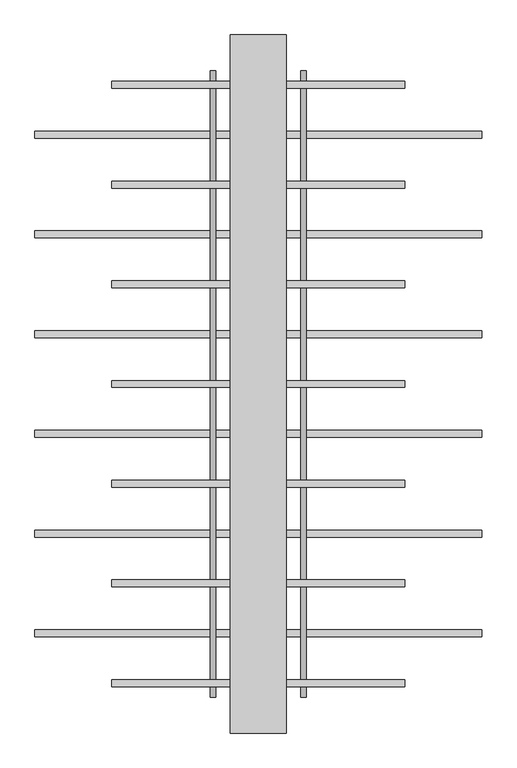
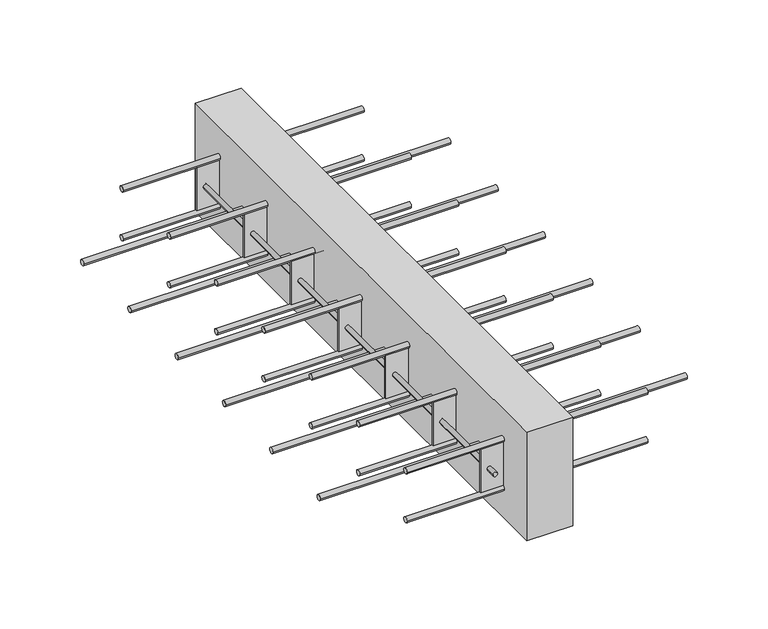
"""IFC4 building model written with IfcOpenShell, lengths in millimetres: proxy geometry, ACINOXplus_Typenreihe_Q : QF+ N."""

from ifc_helpers import new_model, si_unit, point, frame, frame_2d, origin, place, context, project, spatial, polyline, circle_curve, trimmed, segment, composite_curve, outline, extrude, source, transform, mapped, element, save


def generic_models_7f8d0e5b(model_context):
    return source(origin(), model_context, "Body", "SweptSolid", [
        extrude(outline(composite_curve([segment(trimmed(circle_curve(frame_2d((71.4285714, -109.0)), 5.0), [point((66.4285714, -109.0))], [point((76.4285714, -109.0))], False, "CARTESIAN"), True, "CONTINUOUS"), segment(trimmed(circle_curve(frame_2d((71.4285714, -109.0)), 5.0), [point((76.4285714, -109.0))], [point((66.4285714, -109.0))], False, "CARTESIAN"), True, "CONTINUOUS")], self_intersect=False)), frame((-320.0, 0.0, 0.0), z_axis=(1.0, 0.0, 0.0), x_axis=(0.0, 1.0, 0.0)), (0.0, 0.0, 1.0), 640.0),
        extrude(outline(composite_curve([segment(trimmed(circle_curve(frame_2d((-71.4285714, -109.0)), 5.0), [point((-76.4285714, -109.0))], [point((-66.4285714, -109.0))], False, "CARTESIAN"), True, "CONTINUOUS"), segment(trimmed(circle_curve(frame_2d((-71.4285714, -109.0)), 5.0), [point((-66.4285714, -109.0))], [point((-76.4285714, -109.0))], False, "CARTESIAN"), True, "CONTINUOUS")], self_intersect=False)), frame((-320.0, 0.0, 0.0), z_axis=(1.0, 0.0, 0.0), x_axis=(0.0, 1.0, 0.0)), (0.0, 0.0, 1.0), 640.0),
        extrude(outline(composite_curve([segment(trimmed(circle_curve(frame_2d((214.2857143, -109.0)), 5.0), [point((209.2857143, -109.0))], [point((219.2857143, -109.0))], False, "CARTESIAN"), True, "CONTINUOUS"), segment(trimmed(circle_curve(frame_2d((214.2857143, -109.0)), 5.0), [point((219.2857143, -109.0))], [point((209.2857143, -109.0))], False, "CARTESIAN"), True, "CONTINUOUS")], self_intersect=False)), frame((-320.0, 0.0, 0.0), z_axis=(1.0, 0.0, 0.0), x_axis=(0.0, 1.0, 0.0)), (0.0, 0.0, 1.0), 640.0),
        extrude(outline(composite_curve([segment(trimmed(circle_curve(frame_2d((357.1428571, -109.0)), 5.0), [point((352.1428571, -109.0))], [point((362.1428571, -109.0))], False, "CARTESIAN"), True, "CONTINUOUS"), segment(trimmed(circle_curve(frame_2d((357.1428571, -109.0)), 5.0), [point((362.1428571, -109.0))], [point((352.1428571, -109.0))], False, "CARTESIAN"), True, "CONTINUOUS")], self_intersect=False)), frame((-320.0, 0.0, 0.0), z_axis=(1.0, 0.0, 0.0), x_axis=(0.0, 1.0, 0.0)), (0.0, 0.0, 1.0), 640.0),
        extrude(outline(composite_curve([segment(trimmed(circle_curve(frame_2d((-214.2857143, -109.0)), 5.0), [point((-219.2857143, -109.0))], [point((-209.2857143, -109.0))], False, "CARTESIAN"), True, "CONTINUOUS"), segment(trimmed(circle_curve(frame_2d((-214.2857143, -109.0)), 5.0), [point((-209.2857143, -109.0))], [point((-219.2857143, -109.0))], False, "CARTESIAN"), True, "CONTINUOUS")], self_intersect=False)), frame((-320.0, 0.0, 0.0), z_axis=(1.0, 0.0, 0.0), x_axis=(0.0, 1.0, 0.0)), (0.0, 0.0, 1.0), 640.0),
        extrude(outline(composite_curve([segment(trimmed(circle_curve(frame_2d((-357.1428571, -109.0)), 5.0), [point((-362.1428571, -109.0))], [point((-352.1428571, -109.0))], False, "CARTESIAN"), True, "CONTINUOUS"), segment(trimmed(circle_curve(frame_2d((-357.1428571, -109.0)), 5.0), [point((-352.1428571, -109.0))], [point((-362.1428571, -109.0))], False, "CARTESIAN"), True, "CONTINUOUS")], self_intersect=False)), frame((-320.0, 0.0, 0.0), z_axis=(1.0, 0.0, 0.0), x_axis=(0.0, 1.0, 0.0)), (0.0, 0.0, 1.0), 640.0),
        extrude(outline(polyline([(40.0, 500.0), (40.0, -500.0), (-40.0, -500.0), (-40.0, 500.0), (40.0, 500.0)])), frame((0.0, 0.0, -200.0), z_axis=(0.0, 0.0, 1.0), x_axis=(1.0, 0.0, 0.0)), (0.0, 0.0, 1.0), 200.0),
        extrude(outline(polyline([(80.0, -284.2142857), (80.0, -287.2142857), (-80.0, -287.2142857), (-80.0, -284.2142857), (80.0, -284.2142857)])), frame((0.0, 0.0, -140.0), z_axis=(0.0, 0.0, 1.0), x_axis=(1.0, 0.0, 0.0)), (0.0, 0.0, 1.0), 80.0),
        extrude(outline(polyline([(80.0, -141.3571429), (80.0, -144.3571429), (-80.0, -144.3571429), (-80.0, -141.3571429), (80.0, -141.3571429)])), frame((0.0, 0.0, -140.0), z_axis=(0.0, 0.0, 1.0), x_axis=(1.0, 0.0, 0.0)), (0.0, 0.0, 1.0), 80.0),
        extrude(outline(polyline([(80.0, 1.5), (80.0, -1.5), (-80.0, -1.5), (-80.0, 1.5), (80.0, 1.5)])), frame((0.0, 0.0, -140.0), z_axis=(0.0, 0.0, 1.0), x_axis=(1.0, 0.0, 0.0)), (0.0, 0.0, 1.0), 80.0),
        extrude(outline(polyline([(80.0, 144.3571429), (80.0, 141.3571429), (-80.0, 141.3571429), (-80.0, 144.3571429), (80.0, 144.3571429)])), frame((0.0, 0.0, -140.0), z_axis=(0.0, 0.0, 1.0), x_axis=(1.0, 0.0, 0.0)), (0.0, 0.0, 1.0), 80.0),
        extrude(outline(polyline([(80.0, 287.2142857), (80.0, 284.2142857), (-80.0, 284.2142857), (-80.0, 287.2142857), (80.0, 287.2142857)])), frame((0.0, 0.0, -140.0), z_axis=(0.0, 0.0, 1.0), x_axis=(1.0, 0.0, 0.0)), (0.0, 0.0, 1.0), 80.0),
        extrude(outline(polyline([(80.0, -427.0714286), (80.0, -430.0714286), (-80.0, -430.0714286), (-80.0, -427.0714286), (80.0, -427.0714286)])), frame((0.0, 0.0, -140.0), z_axis=(0.0, 0.0, 1.0), x_axis=(1.0, 0.0, 0.0)), (0.0, 0.0, 1.0), 80.0),
        extrude(outline(polyline([(80.0, 430.0714286), (80.0, 427.0714286), (-80.0, 427.0714286), (-80.0, 430.0714286), (80.0, 430.0714286)])), frame((0.0, 0.0, -140.0), z_axis=(0.0, 0.0, 1.0), x_axis=(1.0, 0.0, 0.0)), (0.0, 0.0, 1.0), 80.0),
        extrude(outline(composite_curve([segment(trimmed(circle_curve(frame_2d((-100.0, -65.0)), 4.0), [point((-100.0, -69.0))], [point((-100.0, -61.0))], False, "CARTESIAN"), True, "CONTINUOUS"), segment(trimmed(circle_curve(frame_2d((-100.0, -65.0)), 4.0), [point((-100.0, -61.0))], [point((-100.0, -69.0))], False, "CARTESIAN"), True, "CONTINUOUS")], self_intersect=False)), frame((0.0, -427.0714286, 0.0), z_axis=(0.0, 1.0, 0.0), x_axis=(0.0, 0.0, 1.0)), (0.0, 0.0, 1.0), 711.2857143),
        extrude(outline(composite_curve([segment(trimmed(circle_curve(frame_2d((-100.0, -65.0)), 4.0), [point((-100.0, -69.0))], [point((-100.0, -61.0))], False, "CARTESIAN"), True, "CONTINUOUS"), segment(trimmed(circle_curve(frame_2d((-100.0, -65.0)), 4.0), [point((-100.0, -61.0))], [point((-100.0, -69.0))], False, "CARTESIAN"), True, "CONTINUOUS")], self_intersect=False)), frame((0.0, 430.0714286, 0.0), z_axis=(0.0, 1.0, 0.0), x_axis=(0.0, 0.0, 1.0)), (0.0, 0.0, 1.0), 18.5),
        extrude(outline(composite_curve([segment(trimmed(circle_curve(frame_2d((-100.0, -65.0)), 4.0), [point((-100.0, -61.0))], [point((-100.0, -69.0))], False, "CARTESIAN"), True, "CONTINUOUS"), segment(trimmed(circle_curve(frame_2d((-100.0, -65.0)), 4.0), [point((-100.0, -69.0))], [point((-100.0, -61.0))], False, "CARTESIAN"), True, "CONTINUOUS")], self_intersect=False)), frame((0.0, -448.5714286, 0.0), z_axis=(0.0, 1.0, 0.0), x_axis=(0.0, 0.0, 1.0)), (0.0, 0.0, 1.0), 18.5),
        extrude(outline(composite_curve([segment(trimmed(circle_curve(frame_2d((-100.0, -65.0)), 4.0), [point((-100.0, -69.0))], [point((-100.0, -61.0))], False, "CARTESIAN"), True, "CONTINUOUS"), segment(trimmed(circle_curve(frame_2d((-100.0, -65.0)), 4.0), [point((-100.0, -61.0))], [point((-100.0, -69.0))], False, "CARTESIAN"), True, "CONTINUOUS")], self_intersect=False)), frame((0.0, 287.2142857, 0.0), z_axis=(0.0, 1.0, 0.0), x_axis=(0.0, 0.0, 1.0)), (0.0, 0.0, 1.0), 139.8571429),
        extrude(outline(composite_curve([segment(trimmed(circle_curve(frame_2d((-100.0, 65.0)), 4.0), [point((-100.0, 61.0))], [point((-100.0, 69.0))], False, "CARTESIAN"), True, "CONTINUOUS"), segment(trimmed(circle_curve(frame_2d((-100.0, 65.0)), 4.0), [point((-100.0, 69.0))], [point((-100.0, 61.0))], False, "CARTESIAN"), True, "CONTINUOUS")], self_intersect=False)), frame((0.0, -427.0714286, 0.0), z_axis=(0.0, 1.0, 0.0), x_axis=(0.0, 0.0, 1.0)), (0.0, 0.0, 1.0), 711.2857143),
        extrude(outline(composite_curve([segment(trimmed(circle_curve(frame_2d((-100.0, 65.0)), 4.0), [point((-100.0, 61.0))], [point((-100.0, 69.0))], False, "CARTESIAN"), True, "CONTINUOUS"), segment(trimmed(circle_curve(frame_2d((-100.0, 65.0)), 4.0), [point((-100.0, 69.0))], [point((-100.0, 61.0))], False, "CARTESIAN"), True, "CONTINUOUS")], self_intersect=False)), frame((0.0, 430.0714286, 0.0), z_axis=(0.0, 1.0, 0.0), x_axis=(0.0, 0.0, 1.0)), (0.0, 0.0, 1.0), 18.5),
        extrude(outline(composite_curve([segment(trimmed(circle_curve(frame_2d((-100.0, 65.0)), 4.0), [point((-100.0, 69.0))], [point((-100.0, 61.0))], False, "CARTESIAN"), True, "CONTINUOUS"), segment(trimmed(circle_curve(frame_2d((-100.0, 65.0)), 4.0), [point((-100.0, 61.0))], [point((-100.0, 69.0))], False, "CARTESIAN"), True, "CONTINUOUS")], self_intersect=False)), frame((0.0, -448.5714286, 0.0), z_axis=(0.0, 1.0, 0.0), x_axis=(0.0, 0.0, 1.0)), (0.0, 0.0, 1.0), 18.5),
        extrude(outline(composite_curve([segment(trimmed(circle_curve(frame_2d((-100.0, 65.0)), 4.0), [point((-100.0, 61.0))], [point((-100.0, 69.0))], False, "CARTESIAN"), True, "CONTINUOUS"), segment(trimmed(circle_curve(frame_2d((-100.0, 65.0)), 4.0), [point((-100.0, 69.0))], [point((-100.0, 61.0))], False, "CARTESIAN"), True, "CONTINUOUS")], self_intersect=False)), frame((0.0, 287.2142857, 0.0), z_axis=(0.0, 1.0, 0.0), x_axis=(0.0, 0.0, 1.0)), (0.0, 0.0, 1.0), 139.8571429),
        extrude(outline(composite_curve([segment(trimmed(circle_curve(frame_2d((142.8571429, -145.0)), 5.0), [point((137.8571429, -145.0))], [point((147.8571429, -145.0))], False, "CARTESIAN"), True, "CONTINUOUS"), segment(trimmed(circle_curve(frame_2d((142.8571429, -145.0)), 5.0), [point((147.8571429, -145.0))], [point((137.8571429, -145.0))], False, "CARTESIAN"), True, "CONTINUOUS")], self_intersect=False)), frame((-210.0, 0.0, 0.0), z_axis=(1.0, 0.0, 0.0), x_axis=(0.0, 1.0, 0.0)), (0.0, 0.0, 1.0), 420.0),
        extrude(outline(composite_curve([segment(trimmed(circle_curve(frame_2d((0.0, -145.0)), 5.0), [point((-5.0, -145.0))], [point((5.0, -145.0))], False, "CARTESIAN"), True, "CONTINUOUS"), segment(trimmed(circle_curve(frame_2d((0.0, -145.0)), 5.0), [point((5.0, -145.0))], [point((-5.0, -145.0))], False, "CARTESIAN"), True, "CONTINUOUS")], self_intersect=False)), frame((-210.0, 0.0, 0.0), z_axis=(1.0, 0.0, 0.0), x_axis=(0.0, 1.0, 0.0)), (0.0, 0.0, 1.0), 420.0),
        extrude(outline(composite_curve([segment(trimmed(circle_curve(frame_2d((-142.8571429, -145.0)), 5.0), [point((-147.8571429, -145.0))], [point((-137.8571429, -145.0))], False, "CARTESIAN"), True, "CONTINUOUS"), segment(trimmed(circle_curve(frame_2d((-142.8571429, -145.0)), 5.0), [point((-137.8571429, -145.0))], [point((-147.8571429, -145.0))], False, "CARTESIAN"), True, "CONTINUOUS")], self_intersect=False)), frame((-210.0, 0.0, 0.0), z_axis=(1.0, 0.0, 0.0), x_axis=(0.0, 1.0, 0.0)), (0.0, 0.0, 1.0), 420.0),
        extrude(outline(composite_curve([segment(trimmed(circle_curve(frame_2d((285.7142857, -145.0)), 5.0), [point((280.7142857, -145.0))], [point((290.7142857, -145.0))], False, "CARTESIAN"), True, "CONTINUOUS"), segment(trimmed(circle_curve(frame_2d((285.7142857, -145.0)), 5.0), [point((290.7142857, -145.0))], [point((280.7142857, -145.0))], False, "CARTESIAN"), True, "CONTINUOUS")], self_intersect=False)), frame((-210.0, 0.0, 0.0), z_axis=(1.0, 0.0, 0.0), x_axis=(0.0, 1.0, 0.0)), (0.0, 0.0, 1.0), 420.0),
        extrude(outline(composite_curve([segment(trimmed(circle_curve(frame_2d((428.5714286, -145.0)), 5.0), [point((423.5714286, -145.0))], [point((433.5714286, -145.0))], False, "CARTESIAN"), True, "CONTINUOUS"), segment(trimmed(circle_curve(frame_2d((428.5714286, -145.0)), 5.0), [point((433.5714286, -145.0))], [point((423.5714286, -145.0))], False, "CARTESIAN"), True, "CONTINUOUS")], self_intersect=False)), frame((-210.0, 0.0, 0.0), z_axis=(1.0, 0.0, 0.0), x_axis=(0.0, 1.0, 0.0)), (0.0, 0.0, 1.0), 420.0),
        extrude(outline(composite_curve([segment(trimmed(circle_curve(frame_2d((-285.7142857, -145.0)), 5.0), [point((-290.7142857, -145.0))], [point((-280.7142857, -145.0))], False, "CARTESIAN"), True, "CONTINUOUS"), segment(trimmed(circle_curve(frame_2d((-285.7142857, -145.0)), 5.0), [point((-280.7142857, -145.0))], [point((-290.7142857, -145.0))], False, "CARTESIAN"), True, "CONTINUOUS")], self_intersect=False)), frame((-210.0, 0.0, 0.0), z_axis=(1.0, 0.0, 0.0), x_axis=(0.0, 1.0, 0.0)), (0.0, 0.0, 1.0), 420.0),
        extrude(outline(composite_curve([segment(trimmed(circle_curve(frame_2d((-428.5714286, -145.0)), 5.0), [point((-433.5714286, -145.0))], [point((-423.5714286, -145.0))], False, "CARTESIAN"), True, "CONTINUOUS"), segment(trimmed(circle_curve(frame_2d((-428.5714286, -145.0)), 5.0), [point((-423.5714286, -145.0))], [point((-433.5714286, -145.0))], False, "CARTESIAN"), True, "CONTINUOUS")], self_intersect=False)), frame((-210.0, 0.0, 0.0), z_axis=(1.0, 0.0, 0.0), x_axis=(0.0, 1.0, 0.0)), (0.0, 0.0, 1.0), 420.0),
        extrude(outline(composite_curve([segment(trimmed(circle_curve(frame_2d((142.8571429, -55.0)), 5.0), [point((137.8571429, -55.0))], [point((147.8571429, -55.0))], False, "CARTESIAN"), True, "CONTINUOUS"), segment(trimmed(circle_curve(frame_2d((142.8571429, -55.0)), 5.0), [point((147.8571429, -55.0))], [point((137.8571429, -55.0))], False, "CARTESIAN"), True, "CONTINUOUS")], self_intersect=False)), frame((-210.0, 0.0, 0.0), z_axis=(1.0, 0.0, 0.0), x_axis=(0.0, 1.0, 0.0)), (0.0, 0.0, 1.0), 420.0),
        extrude(outline(composite_curve([segment(trimmed(circle_curve(frame_2d((0.0, -55.0)), 5.0), [point((-5.0, -55.0))], [point((5.0, -55.0))], False, "CARTESIAN"), True, "CONTINUOUS"), segment(trimmed(circle_curve(frame_2d((0.0, -55.0)), 5.0), [point((5.0, -55.0))], [point((-5.0, -55.0))], False, "CARTESIAN"), True, "CONTINUOUS")], self_intersect=False)), frame((-210.0, 0.0, 0.0), z_axis=(1.0, 0.0, 0.0), x_axis=(0.0, 1.0, 0.0)), (0.0, 0.0, 1.0), 420.0),
        extrude(outline(composite_curve([segment(trimmed(circle_curve(frame_2d((-142.8571429, -55.0)), 5.0), [point((-147.8571429, -55.0))], [point((-137.8571429, -55.0))], False, "CARTESIAN"), True, "CONTINUOUS"), segment(trimmed(circle_curve(frame_2d((-142.8571429, -55.0)), 5.0), [point((-137.8571429, -55.0))], [point((-147.8571429, -55.0))], False, "CARTESIAN"), True, "CONTINUOUS")], self_intersect=False)), frame((-210.0, 0.0, 0.0), z_axis=(1.0, 0.0, 0.0), x_axis=(0.0, 1.0, 0.0)), (0.0, 0.0, 1.0), 420.0),
        extrude(outline(composite_curve([segment(trimmed(circle_curve(frame_2d((285.7142857, -55.0)), 5.0), [point((280.7142857, -55.0))], [point((290.7142857, -55.0))], False, "CARTESIAN"), True, "CONTINUOUS"), segment(trimmed(circle_curve(frame_2d((285.7142857, -55.0)), 5.0), [point((290.7142857, -55.0))], [point((280.7142857, -55.0))], False, "CARTESIAN"), True, "CONTINUOUS")], self_intersect=False)), frame((-210.0, 0.0, 0.0), z_axis=(1.0, 0.0, 0.0), x_axis=(0.0, 1.0, 0.0)), (0.0, 0.0, 1.0), 420.0),
        extrude(outline(composite_curve([segment(trimmed(circle_curve(frame_2d((428.5714286, -55.0)), 5.0), [point((423.5714286, -55.0))], [point((433.5714286, -55.0))], False, "CARTESIAN"), True, "CONTINUOUS"), segment(trimmed(circle_curve(frame_2d((428.5714286, -55.0)), 5.0), [point((433.5714286, -55.0))], [point((423.5714286, -55.0))], False, "CARTESIAN"), True, "CONTINUOUS")], self_intersect=False)), frame((-210.0, 0.0, 0.0), z_axis=(1.0, 0.0, 0.0), x_axis=(0.0, 1.0, 0.0)), (0.0, 0.0, 1.0), 420.0),
        extrude(outline(composite_curve([segment(trimmed(circle_curve(frame_2d((-285.7142857, -55.0)), 5.0), [point((-290.7142857, -55.0))], [point((-280.7142857, -55.0))], False, "CARTESIAN"), True, "CONTINUOUS"), segment(trimmed(circle_curve(frame_2d((-285.7142857, -55.0)), 5.0), [point((-280.7142857, -55.0))], [point((-290.7142857, -55.0))], False, "CARTESIAN"), True, "CONTINUOUS")], self_intersect=False)), frame((-210.0, 0.0, 0.0), z_axis=(1.0, 0.0, 0.0), x_axis=(0.0, 1.0, 0.0)), (0.0, 0.0, 1.0), 420.0),
        extrude(outline(composite_curve([segment(trimmed(circle_curve(frame_2d((-428.5714286, -55.0)), 5.0), [point((-433.5714286, -55.0))], [point((-423.5714286, -55.0))], False, "CARTESIAN"), True, "CONTINUOUS"), segment(trimmed(circle_curve(frame_2d((-428.5714286, -55.0)), 5.0), [point((-423.5714286, -55.0))], [point((-433.5714286, -55.0))], False, "CARTESIAN"), True, "CONTINUOUS")], self_intersect=False)), frame((-210.0, 0.0, 0.0), z_axis=(1.0, 0.0, 0.0), x_axis=(0.0, 1.0, 0.0)), (0.0, 0.0, 1.0), 420.0),
    ])


if __name__ == "__main__":
    model = new_model("IFC4")
    model_context = context("Model", 3, world=origin())
    ifc_project = project(units=[si_unit("LENGTHUNIT", "METRE", prefix="MILLI")], contexts=[model_context])
    site = spatial("IfcSite", under=ifc_project)
    building = spatial("IfcBuilding", under=site)
    placement = place(None, origin())
    generic_models_shape = generic_models_7f8d0e5b(model_context)
    element("IfcBuildingElementProxy", 1, Name="ACINOXplus_Typenreihe_Q : QF+ N", ObjectType="ACINOXplus_Typenreihe_Q : QF+ N", at=placement, inside=building, context=model_context, shape_type="MappedRepresentation", body=[
        mapped(generic_models_shape, transform((0.0, 0.0, 0.0), x_axis=(1.0, 0.0, 0.0), y_axis=(0.0, 1.0, 0.0), z_axis=(0.0, 0.0, 1.0))),
    ])
    save(model, "model.ifc")
